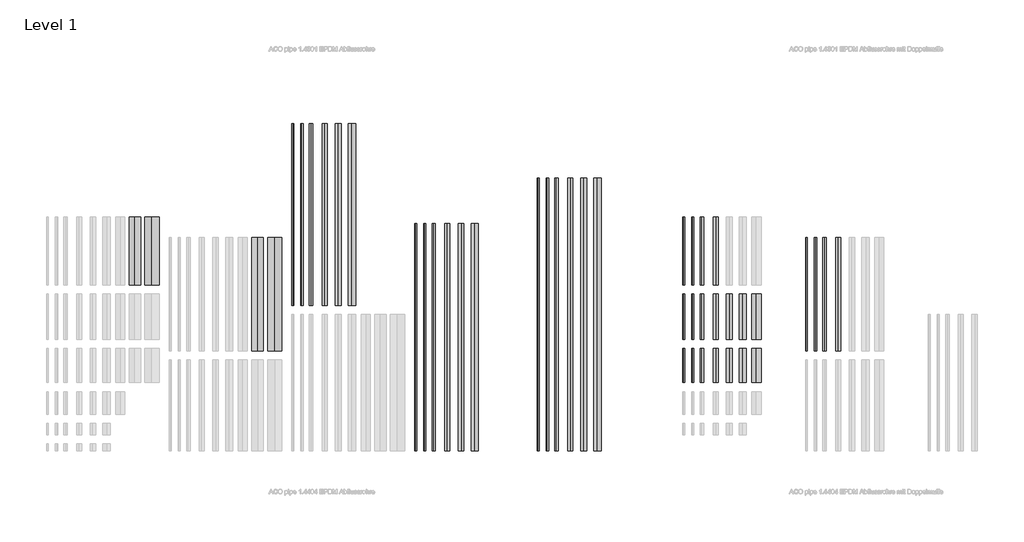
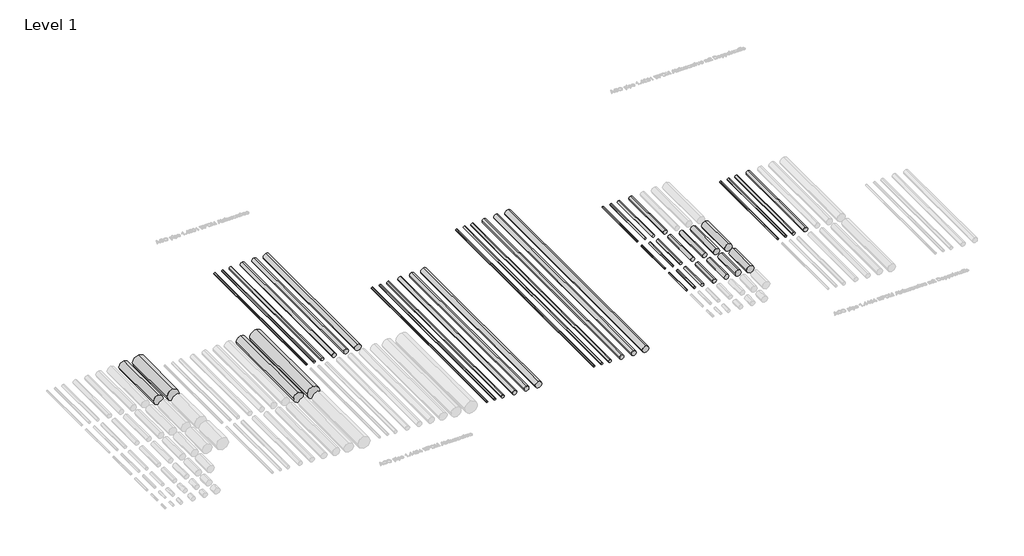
# One storey, part 3 of 13: 44 pipe segments.
"""IFC4 building model written with IfcOpenShell, lengths in millimetres."""

import ifcopenshell
import ifcopenshell.guid

model = None  # the IFC model being written
_history = None  # IfcOwnerHistory: only IFC2X3 demands one
_inside = {}  # id of a spatial element -> (the spatial element, [elements in it])
_under = {}  # id of a project, library or spatial element -> (it, [spatial elements below it])
_declared = {}  # id of a project -> (the project, [libraries it declares])
_typed = {}  # id of a type object -> (the type object, [elements of that type])
_made_of = {}  # id of a material, layer set ... -> (it, [elements and type objects made of it])


def new_model(schema):
    """Start an empty IFC model of exactly this schema.

    Asked for "IFC4X3", IfcOpenShell would pick the latest addendum, in which some entities
    have other attributes; the version numbers below select the first issue.
    IFC2X3 requires an IfcOwnerHistory on every rooted entity: one is made here for all.
    """
    global model, _history
    if schema == "IFC4X3":
        model = ifcopenshell.file(schema_version=(4, 3, 0, 0))
    else:
        model = ifcopenshell.file(schema=schema)
    _inside.clear()
    _under.clear()
    _declared.clear()
    _typed.clear()
    _made_of.clear()
    _history = None
    if model.schema == "IFC2X3":
        org = make("IfcOrganization", Name="unknown")
        user = make(
            "IfcPersonAndOrganization",
            ThePerson=make("IfcPerson", FamilyName="unknown"),
            TheOrganization=org,
        )
        app = make(
            "IfcApplication",
            ApplicationDeveloper=org,
            Version="unknown",
            ApplicationFullName="unknown",
            ApplicationIdentifier="unknown",
        )
        _history = make(
            "IfcOwnerHistory",
            OwningUser=user,
            OwningApplication=app,
            ChangeAction="ADDED",
            CreationDate=0,
        )
    return model


def make(cls, **values):
    """One entity of the class cls with the attributes given. An attribute that is None is left unset."""
    return model.create_entity(
        cls, **{name: value for name, value in values.items() if value is not None}
    )


def rooted(cls, **values):
    """An entity with a GlobalId (a new one), such as an element, a storey or a relation."""
    return make(cls, GlobalId=ifcopenshell.guid.new(), OwnerHistory=_history, **values)


def si_unit(unit_type, name, prefix=None):
    """IfcSIUnit, for example si_unit("LENGTHUNIT", "METRE", prefix="MILLI")."""
    return make("IfcSIUnit", UnitType=unit_type, Prefix=prefix, Name=name)


def assignment(units):
    """IfcUnitAssignment: the units of a project."""
    return None if units is None else make("IfcUnitAssignment", Units=units)


def point(xyz):
    """IfcCartesianPoint."""
    return None if xyz is None else make("IfcCartesianPoint", Coordinates=xyz)


def direction(xyz):
    """IfcDirection."""
    return None if xyz is None else make("IfcDirection", DirectionRatios=xyz)


def frame(location, z_axis=None, x_axis=None):
    """IfcAxis2Placement3D, a coordinate frame: its origin and axes. An axis left out is left unset."""
    return make(
        "IfcAxis2Placement3D",
        Location=point(location),
        Axis=direction(z_axis),
        RefDirection=direction(x_axis),
    )


def frame_2d(location, x_axis=None):
    """IfcAxis2Placement2D, a coordinate frame in the plane: its origin and x axis."""
    return make(
        "IfcAxis2Placement2D", Location=point(location), RefDirection=direction(x_axis)
    )


def origin():
    """The frame at (0, 0, 0) with its axes left unset."""
    return frame((0.0, 0.0, 0.0))


def place(relative_to, where):
    """IfcLocalPlacement: puts the frame where relative to a parent placement (None: the world)."""
    return make(
        "IfcLocalPlacement", PlacementRelTo=relative_to, RelativePlacement=where
    )


def context(
    kind, dimensions, precision=None, world=None, true_north=None, identifier=None
):
    """IfcGeometricRepresentationContext, for example the 3D "Model" context."""
    return make(
        "IfcGeometricRepresentationContext",
        ContextIdentifier=identifier,
        ContextType=kind,
        CoordinateSpaceDimension=dimensions,
        Precision=precision,
        WorldCoordinateSystem=world,
        TrueNorth=true_north,
    )


def project(units=None, contexts=None):
    """IfcProject with its units and contexts."""
    return rooted(
        "IfcProject",
        Name="project",
        RepresentationContexts=contexts,
        UnitsInContext=assignment(units),
    )


def spatial(cls, under=None, at=None, **own):
    """A site, building, storey or space (cls), placed at a placement, below another one or the project."""
    s = rooted(cls, ObjectPlacement=at, **own)
    if under is not None:
        _under.setdefault(under.id(), (under, []))[1].append(s)
    return s


def circle_curve(where, radius):
    """IfcCircle in the frame where."""
    return make("IfcCircle", Position=where, Radius=radius)


def trimmed(basis, trim1, trim2, sense, master):
    """IfcTrimmedCurve: the piece of a basis curve between two trims."""
    return make(
        "IfcTrimmedCurve",
        BasisCurve=basis,
        Trim1=trim1,
        Trim2=trim2,
        SenseAgreement=sense,
        MasterRepresentation=master,
    )


def segment(curve, same_sense, transition):
    """IfcCompositeCurveSegment."""
    return make(
        "IfcCompositeCurveSegment",
        Transition=transition,
        SameSense=same_sense,
        ParentCurve=curve,
    )


def composite_curve(segments, self_intersect=None):
    """IfcCompositeCurve: segments joined end to end."""
    return make("IfcCompositeCurve", Segments=segments, SelfIntersect=self_intersect)


def outline(outer, holes=None, kind="AREA"):
    """IfcArbitraryClosedProfileDef: a profile drawn as a closed curve; with holes, ...WithVoids."""
    if holes is None:
        return make("IfcArbitraryClosedProfileDef", ProfileType=kind, OuterCurve=outer)
    return make(
        "IfcArbitraryProfileDefWithVoids",
        ProfileType=kind,
        OuterCurve=outer,
        InnerCurves=holes,
    )


def extrude(swept, where, along, depth):
    """IfcExtrudedAreaSolid: the profile swept, set in the frame where, extruded along a direction by depth."""
    return make(
        "IfcExtrudedAreaSolid",
        SweptArea=swept,
        Position=where,
        ExtrudedDirection=direction(along),
        Depth=depth,
    )


def shape(context_of_items, identifier, shape_type, items):
    """IfcShapeRepresentation: the items that make up one representation, for example the "Body"."""
    return make(
        "IfcShapeRepresentation",
        ContextOfItems=context_of_items,
        RepresentationIdentifier=identifier,
        RepresentationType=shape_type,
        Items=items,
    )


def made_of(thing, what):
    """Note that an element or type object is made of a material, layer set ...; save() writes the relation."""
    if what is not None:
        _made_of.setdefault(what.id(), (what, []))[1].append(thing)
    return thing


def element(
    cls,
    number,
    at=None,
    inside=None,
    cuts=None,
    type_object=None,
    material=None,
    context=None,
    identifier="Body",
    shape_type=None,
    held_by="IfcProductDefinitionShape",
    body=None,
    shapes=None,
    **own,
):
    """One element of the class cls, such as IfcWall. Its Tag is "e" and its number.

    at: its placement. inside: the storey or other place that contains it. cuts: it is an
    opening in that element (IfcRelVoidsElement). A single representation is given by context,
    identifier, shape_type and body (its items); several are given by shapes. held_by: the class
    of the entity that holds the representations. save() writes the other relations.
    """
    e = rooted(cls, Tag="e%d" % number, ObjectPlacement=at, **own)
    if body is not None:
        shapes = [shape(context, identifier, shape_type, body)]
    if shapes is not None:
        e.Representation = make(held_by, Representations=shapes)
    if inside is not None:
        _inside.setdefault(inside.id(), (inside, []))[1].append(e)
    if cuts is not None:
        rooted(
            "IfcRelVoidsElement", RelatingBuildingElement=cuts, RelatedOpeningElement=e
        )
    if type_object is not None:
        _typed.setdefault(type_object.id(), (type_object, []))[1].append(e)
    return made_of(e, material)


def aggregate(whole, parts):
    """IfcRelAggregates: a whole, such as a stair, and the parts it consists of."""
    return rooted("IfcRelAggregates", RelatingObject=whole, RelatedObjects=parts)


def save(model, path):
    """Write the relations noted so far, then the file.

    IfcRelAggregates (storeys below a building ...), IfcRelContainedInSpatialStructure (elements
    in a storey), IfcRelDefinesByType, IfcRelAssociatesMaterial and IfcRelDeclares: one each for
    every whole, place, type object, material and project.
    """
    for whole, parts in _under.values():
        aggregate(whole, parts)
    for where, things in _inside.values():
        rooted(
            "IfcRelContainedInSpatialStructure",
            RelatedElements=things,
            RelatingStructure=where,
        )
    for kind, things in _typed.values():
        rooted("IfcRelDefinesByType", RelatedObjects=things, RelatingType=kind)
    for what, things in _made_of.values():
        rooted("IfcRelAssociatesMaterial", RelatedObjects=things, RelatingMaterial=what)
    for by, libraries in _declared.values():
        rooted("IfcRelDeclares", RelatingContext=by, RelatedDefinitions=libraries)
    model.write(path)


model = new_model("IFC4")

# Units and contexts
model_context = context("Model", 3, world=origin())
ifc_project = project(units=[si_unit("LENGTHUNIT", "METRE", prefix="MILLI")], contexts=[model_context])

# Site, building, storey
site = spatial("IfcSite", under=ifc_project)
building = spatial("IfcBuilding", under=site)
storey = spatial("IfcBuildingStorey", under=building, Name="Level 1", Elevation=0.0)

# Pipe segments
placement = place(None, origin())
element("IfcPipeSegment", 1, ObjectType="ACO pipe 1.4404 OD (complex)", at=placement, inside=storey, context=model_context, shape_type="SweptSolid", body=[
    extrude(outline(composite_curve([segment(trimmed(circle_curve(frame_2d((0.0, 3721.7461061)), 20.0), [point((0.0, 3741.7461061))], [point((20.0, 3721.7461061))], False, "CARTESIAN"), True, "CONTINUOUS"), segment(trimmed(circle_curve(frame_2d((0.0, 3721.7461061)), 20.0), [point((20.0, 3721.7461061))], [point((0.0, 3701.7461061))], False, "CARTESIAN"), True, "CONTINUOUS"), segment(trimmed(circle_curve(frame_2d((0.0, 3721.7461061)), 20.0), [point((0.0, 3701.7461061))], [point((-20.0, 3721.7461061))], False, "CARTESIAN"), True, "CONTINUOUS"), segment(trimmed(circle_curve(frame_2d((0.0, 3721.7461061)), 20.0), [point((-20.0, 3721.7461061))], [point((0.0, 3741.7461061))], False, "CARTESIAN"), True, "CONTINUOUS")], self_intersect=False)), frame((0.0, -6569.2114353, 0.0), z_axis=(0.0, 1.0, 0.0), x_axis=(0.0, 0.0, 1.0)), (0.0, 0.0, 1.0), 4000.0),
])
element("IfcPipeSegment", 2, ObjectType="ACO pipe 1.4404 OD (complex)", at=placement, inside=storey, context=model_context, shape_type="SweptSolid", body=[
    extrude(outline(composite_curve([segment(trimmed(circle_curve(frame_2d((0.0, 3921.7461061)), 25.0), [point((0.0, 3946.7461061))], [point((25.0, 3921.7461061))], False, "CARTESIAN"), True, "CONTINUOUS"), segment(trimmed(circle_curve(frame_2d((0.0, 3921.7461061)), 25.0), [point((25.0, 3921.7461061))], [point((0.0, 3896.7461061))], False, "CARTESIAN"), True, "CONTINUOUS"), segment(trimmed(circle_curve(frame_2d((0.0, 3921.7461061)), 25.0), [point((0.0, 3896.7461061))], [point((-25.0, 3921.7461061))], False, "CARTESIAN"), True, "CONTINUOUS"), segment(trimmed(circle_curve(frame_2d((0.0, 3921.7461061)), 25.0), [point((-25.0, 3921.7461061))], [point((0.0, 3946.7461061))], False, "CARTESIAN"), True, "CONTINUOUS")], self_intersect=False)), frame((0.0, -6569.2114353, 0.0), z_axis=(0.0, 1.0, 0.0), x_axis=(0.0, 0.0, 1.0)), (0.0, 0.0, 1.0), 4000.0),
])
element("IfcPipeSegment", 3, ObjectType="ACO pipe 1.4404 OD (complex)", at=placement, inside=storey, context=model_context, shape_type="SweptSolid", body=[
    extrude(outline(composite_curve([segment(trimmed(circle_curve(frame_2d((0.0, 4121.7461061)), 37.5), [point((0.0, 4159.2461061))], [point((37.5, 4121.7461061))], False, "CARTESIAN"), True, "CONTINUOUS"), segment(trimmed(circle_curve(frame_2d((0.0, 4121.7461061)), 37.5), [point((37.5, 4121.7461061))], [point((0.0, 4084.2461061))], False, "CARTESIAN"), True, "CONTINUOUS"), segment(trimmed(circle_curve(frame_2d((0.0, 4121.7461061)), 37.5), [point((0.0, 4084.2461061))], [point((-37.5, 4121.7461061))], False, "CARTESIAN"), True, "CONTINUOUS"), segment(trimmed(circle_curve(frame_2d((0.0, 4121.7461061)), 37.5), [point((-37.5, 4121.7461061))], [point((0.0, 4159.2461061))], False, "CARTESIAN"), True, "CONTINUOUS")], self_intersect=False)), frame((0.0, -6569.2114353, 0.0), z_axis=(0.0, 1.0, 0.0), x_axis=(0.0, 0.0, 1.0)), (0.0, 0.0, 1.0), 4000.0),
])
element("IfcPipeSegment", 4, ObjectType="ACO pipe 1.4404 OD (complex)", at=placement, inside=storey, context=model_context, shape_type="SweptSolid", body=[
    extrude(outline(composite_curve([segment(trimmed(circle_curve(frame_2d((0.0, 4421.7461061)), 55.0), [point((0.0, 4476.7461061))], [point((55.0, 4421.7461061))], False, "CARTESIAN"), True, "CONTINUOUS"), segment(trimmed(circle_curve(frame_2d((0.0, 4421.7461061)), 55.0), [point((55.0, 4421.7461061))], [point((0.0, 4366.7461061))], False, "CARTESIAN"), True, "CONTINUOUS"), segment(trimmed(circle_curve(frame_2d((0.0, 4421.7461061)), 55.0), [point((0.0, 4366.7461061))], [point((-55.0, 4421.7461061))], False, "CARTESIAN"), True, "CONTINUOUS"), segment(trimmed(circle_curve(frame_2d((0.0, 4421.7461061)), 55.0), [point((-55.0, 4421.7461061))], [point((0.0, 4476.7461061))], False, "CARTESIAN"), True, "CONTINUOUS")], self_intersect=False)), frame((0.0, -6569.2114353, 0.0), z_axis=(0.0, 1.0, 0.0), x_axis=(0.0, 0.0, 1.0)), (0.0, 0.0, 1.0), 4000.0),
])
element("IfcPipeSegment", 5, ObjectType="ACO pipe 1.4404 OD (complex)", at=placement, inside=storey, context=model_context, shape_type="SweptSolid", body=[
    extrude(outline(composite_curve([segment(trimmed(circle_curve(frame_2d((0.0, 4721.7461061)), 62.5), [point((0.0, 4784.2461061))], [point((62.5, 4721.7461061))], False, "CARTESIAN"), True, "CONTINUOUS"), segment(trimmed(circle_curve(frame_2d((0.0, 4721.7461061)), 62.5), [point((62.5, 4721.7461061))], [point((0.0, 4659.2461061))], False, "CARTESIAN"), True, "CONTINUOUS"), segment(trimmed(circle_curve(frame_2d((0.0, 4721.7461061)), 62.5), [point((0.0, 4659.2461061))], [point((-62.5, 4721.7461061))], False, "CARTESIAN"), True, "CONTINUOUS"), segment(trimmed(circle_curve(frame_2d((0.0, 4721.7461061)), 62.5), [point((-62.5, 4721.7461061))], [point((0.0, 4784.2461061))], False, "CARTESIAN"), True, "CONTINUOUS")], self_intersect=False)), frame((0.0, -6569.2114353, 0.0), z_axis=(0.0, 1.0, 0.0), x_axis=(0.0, 0.0, 1.0)), (0.0, 0.0, 1.0), 4000.0),
])
element("IfcPipeSegment", 6, ObjectType="ACO pipe 1.4404 OD (complex)", at=placement, inside=storey, context=model_context, shape_type="SweptSolid", body=[
    extrude(outline(composite_curve([segment(trimmed(circle_curve(frame_2d((0.0, 5021.7461061)), 80.0), [point((0.0, 5101.7461061))], [point((80.0, 5021.7461061))], False, "CARTESIAN"), True, "CONTINUOUS"), segment(trimmed(circle_curve(frame_2d((0.0, 5021.7461061)), 80.0), [point((80.0, 5021.7461061))], [point((0.0, 4941.7461061))], False, "CARTESIAN"), True, "CONTINUOUS"), segment(trimmed(circle_curve(frame_2d((0.0, 5021.7461061)), 80.0), [point((0.0, 4941.7461061))], [point((-80.0, 5021.7461061))], False, "CARTESIAN"), True, "CONTINUOUS"), segment(trimmed(circle_curve(frame_2d((0.0, 5021.7461061)), 80.0), [point((-80.0, 5021.7461061))], [point((0.0, 5101.7461061))], False, "CARTESIAN"), True, "CONTINUOUS")], self_intersect=False)), frame((0.0, -6569.2114353, 0.0), z_axis=(0.0, 1.0, 0.0), x_axis=(0.0, 0.0, 1.0)), (0.0, 0.0, 1.0), 4000.0),
])
element("IfcPipeSegment", 7, ObjectType="ACO pipe 1.4404 OD (complex)", at=placement, inside=storey, context=model_context, shape_type="SweptSolid", body=[
    extrude(outline(composite_curve([segment(trimmed(circle_curve(frame_2d((0.0, 6421.7461061)), 20.0), [point((0.0, 6441.7461061))], [point((20.0, 6421.7461061))], False, "CARTESIAN"), True, "CONTINUOUS"), segment(trimmed(circle_curve(frame_2d((0.0, 6421.7461061)), 20.0), [point((20.0, 6421.7461061))], [point((0.0, 6401.7461061))], False, "CARTESIAN"), True, "CONTINUOUS"), segment(trimmed(circle_curve(frame_2d((0.0, 6421.7461061)), 20.0), [point((0.0, 6401.7461061))], [point((-20.0, 6421.7461061))], False, "CARTESIAN"), True, "CONTINUOUS"), segment(trimmed(circle_curve(frame_2d((0.0, 6421.7461061)), 20.0), [point((-20.0, 6421.7461061))], [point((0.0, 6441.7461061))], False, "CARTESIAN"), True, "CONTINUOUS")], self_intersect=False)), frame((0.0, -9769.2114353, 0.0), z_axis=(0.0, 1.0, 0.0), x_axis=(0.0, 0.0, 1.0)), (0.0, 0.0, 1.0), 5000.0),
])
element("IfcPipeSegment", 8, ObjectType="ACO pipe 1.4404 OD (complex)", at=placement, inside=storey, context=model_context, shape_type="SweptSolid", body=[
    extrude(outline(composite_curve([segment(trimmed(circle_curve(frame_2d((0.0, 6621.7461061)), 25.0), [point((0.0, 6646.7461061))], [point((25.0, 6621.7461061))], False, "CARTESIAN"), True, "CONTINUOUS"), segment(trimmed(circle_curve(frame_2d((0.0, 6621.7461061)), 25.0), [point((25.0, 6621.7461061))], [point((0.0, 6596.7461061))], False, "CARTESIAN"), True, "CONTINUOUS"), segment(trimmed(circle_curve(frame_2d((0.0, 6621.7461061)), 25.0), [point((0.0, 6596.7461061))], [point((-25.0, 6621.7461061))], False, "CARTESIAN"), True, "CONTINUOUS"), segment(trimmed(circle_curve(frame_2d((0.0, 6621.7461061)), 25.0), [point((-25.0, 6621.7461061))], [point((0.0, 6646.7461061))], False, "CARTESIAN"), True, "CONTINUOUS")], self_intersect=False)), frame((0.0, -9769.2114353, 0.0), z_axis=(0.0, 1.0, 0.0), x_axis=(0.0, 0.0, 1.0)), (0.0, 0.0, 1.0), 5000.0),
])
element("IfcPipeSegment", 9, ObjectType="ACO pipe 1.4404 OD (complex)", at=placement, inside=storey, context=model_context, shape_type="SweptSolid", body=[
    extrude(outline(composite_curve([segment(trimmed(circle_curve(frame_2d((0.0, 6821.7461061)), 37.5), [point((0.0, 6859.2461061))], [point((37.5, 6821.7461061))], False, "CARTESIAN"), True, "CONTINUOUS"), segment(trimmed(circle_curve(frame_2d((0.0, 6821.7461061)), 37.5), [point((37.5, 6821.7461061))], [point((0.0, 6784.2461061))], False, "CARTESIAN"), True, "CONTINUOUS"), segment(trimmed(circle_curve(frame_2d((0.0, 6821.7461061)), 37.5), [point((0.0, 6784.2461061))], [point((-37.5, 6821.7461061))], False, "CARTESIAN"), True, "CONTINUOUS"), segment(trimmed(circle_curve(frame_2d((0.0, 6821.7461061)), 37.5), [point((-37.5, 6821.7461061))], [point((0.0, 6859.2461061))], False, "CARTESIAN"), True, "CONTINUOUS")], self_intersect=False)), frame((0.0, -9769.2114353, 0.0), z_axis=(0.0, 1.0, 0.0), x_axis=(0.0, 0.0, 1.0)), (0.0, 0.0, 1.0), 5000.0),
])
element("IfcPipeSegment", 10, ObjectType="ACO pipe 1.4404 OD (complex)", at=placement, inside=storey, context=model_context, shape_type="SweptSolid", body=[
    extrude(outline(composite_curve([segment(trimmed(circle_curve(frame_2d((0.0, 7121.7461061)), 55.0), [point((0.0, 7176.7461061))], [point((55.0, 7121.7461061))], False, "CARTESIAN"), True, "CONTINUOUS"), segment(trimmed(circle_curve(frame_2d((0.0, 7121.7461061)), 55.0), [point((55.0, 7121.7461061))], [point((0.0, 7066.7461061))], False, "CARTESIAN"), True, "CONTINUOUS"), segment(trimmed(circle_curve(frame_2d((0.0, 7121.7461061)), 55.0), [point((0.0, 7066.7461061))], [point((-55.0, 7121.7461061))], False, "CARTESIAN"), True, "CONTINUOUS"), segment(trimmed(circle_curve(frame_2d((0.0, 7121.7461061)), 55.0), [point((-55.0, 7121.7461061))], [point((0.0, 7176.7461061))], False, "CARTESIAN"), True, "CONTINUOUS")], self_intersect=False)), frame((0.0, -9769.2114353, 0.0), z_axis=(0.0, 1.0, 0.0), x_axis=(0.0, 0.0, 1.0)), (0.0, 0.0, 1.0), 5000.0),
])
element("IfcPipeSegment", 11, ObjectType="ACO pipe 1.4404 OD (complex)", at=placement, inside=storey, context=model_context, shape_type="SweptSolid", body=[
    extrude(outline(composite_curve([segment(trimmed(circle_curve(frame_2d((0.0, 7421.7461061)), 62.5), [point((0.0, 7484.2461061))], [point((62.5, 7421.7461061))], False, "CARTESIAN"), True, "CONTINUOUS"), segment(trimmed(circle_curve(frame_2d((0.0, 7421.7461061)), 62.5), [point((62.5, 7421.7461061))], [point((0.0, 7359.2461061))], False, "CARTESIAN"), True, "CONTINUOUS"), segment(trimmed(circle_curve(frame_2d((0.0, 7421.7461061)), 62.5), [point((0.0, 7359.2461061))], [point((-62.5, 7421.7461061))], False, "CARTESIAN"), True, "CONTINUOUS"), segment(trimmed(circle_curve(frame_2d((0.0, 7421.7461061)), 62.5), [point((-62.5, 7421.7461061))], [point((0.0, 7484.2461061))], False, "CARTESIAN"), True, "CONTINUOUS")], self_intersect=False)), frame((0.0, -9769.2114353, 0.0), z_axis=(0.0, 1.0, 0.0), x_axis=(0.0, 0.0, 1.0)), (0.0, 0.0, 1.0), 5000.0),
])
element("IfcPipeSegment", 12, ObjectType="ACO pipe 1.4404 OD (complex)", at=placement, inside=storey, context=model_context, shape_type="SweptSolid", body=[
    extrude(outline(composite_curve([segment(trimmed(circle_curve(frame_2d((0.0, 7721.7461061)), 80.0), [point((0.0, 7801.7461061))], [point((80.0, 7721.7461061))], False, "CARTESIAN"), True, "CONTINUOUS"), segment(trimmed(circle_curve(frame_2d((0.0, 7721.7461061)), 80.0), [point((80.0, 7721.7461061))], [point((0.0, 7641.7461061))], False, "CARTESIAN"), True, "CONTINUOUS"), segment(trimmed(circle_curve(frame_2d((0.0, 7721.7461061)), 80.0), [point((0.0, 7641.7461061))], [point((-80.0, 7721.7461061))], False, "CARTESIAN"), True, "CONTINUOUS"), segment(trimmed(circle_curve(frame_2d((0.0, 7721.7461061)), 80.0), [point((-80.0, 7721.7461061))], [point((0.0, 7801.7461061))], False, "CARTESIAN"), True, "CONTINUOUS")], self_intersect=False)), frame((0.0, -9769.2114353, 0.0), z_axis=(0.0, 1.0, 0.0), x_axis=(0.0, 0.0, 1.0)), (0.0, 0.0, 1.0), 5000.0),
])
element("IfcPipeSegment", 13, ObjectType="ACO pipe 1.4404 OD (complex)", at=placement, inside=storey, context=model_context, shape_type="SweptSolid", body=[
    extrude(outline(composite_curve([segment(trimmed(circle_curve(frame_2d((0.0, 9121.7461061)), 20.0), [point((0.0, 9141.7461061))], [point((20.0, 9121.7461061))], False, "CARTESIAN"), True, "CONTINUOUS"), segment(trimmed(circle_curve(frame_2d((0.0, 9121.7461061)), 20.0), [point((20.0, 9121.7461061))], [point((0.0, 9101.7461061))], False, "CARTESIAN"), True, "CONTINUOUS"), segment(trimmed(circle_curve(frame_2d((0.0, 9121.7461061)), 20.0), [point((0.0, 9101.7461061))], [point((-20.0, 9121.7461061))], False, "CARTESIAN"), True, "CONTINUOUS"), segment(trimmed(circle_curve(frame_2d((0.0, 9121.7461061)), 20.0), [point((-20.0, 9121.7461061))], [point((0.0, 9141.7461061))], False, "CARTESIAN"), True, "CONTINUOUS")], self_intersect=False)), frame((0.0, -9769.2114353, 0.0), z_axis=(0.0, 1.0, 0.0), x_axis=(0.0, 0.0, 1.0)), (0.0, 0.0, 1.0), 6000.0),
])
element("IfcPipeSegment", 14, ObjectType="ACO pipe 1.4404 OD (complex)", at=placement, inside=storey, context=model_context, shape_type="SweptSolid", body=[
    extrude(outline(composite_curve([segment(trimmed(circle_curve(frame_2d((0.0, 9321.7461061)), 25.0), [point((0.0, 9346.7461061))], [point((25.0, 9321.7461061))], False, "CARTESIAN"), True, "CONTINUOUS"), segment(trimmed(circle_curve(frame_2d((0.0, 9321.7461061)), 25.0), [point((25.0, 9321.7461061))], [point((0.0, 9296.7461061))], False, "CARTESIAN"), True, "CONTINUOUS"), segment(trimmed(circle_curve(frame_2d((0.0, 9321.7461061)), 25.0), [point((0.0, 9296.7461061))], [point((-25.0, 9321.7461061))], False, "CARTESIAN"), True, "CONTINUOUS"), segment(trimmed(circle_curve(frame_2d((0.0, 9321.7461061)), 25.0), [point((-25.0, 9321.7461061))], [point((0.0, 9346.7461061))], False, "CARTESIAN"), True, "CONTINUOUS")], self_intersect=False)), frame((0.0, -9769.2114353, 0.0), z_axis=(0.0, 1.0, 0.0), x_axis=(0.0, 0.0, 1.0)), (0.0, 0.0, 1.0), 6000.0),
])
element("IfcPipeSegment", 15, ObjectType="ACO pipe 1.4404 OD (complex)", at=placement, inside=storey, context=model_context, shape_type="SweptSolid", body=[
    extrude(outline(composite_curve([segment(trimmed(circle_curve(frame_2d((0.0, 9521.7461061)), 37.5), [point((0.0, 9559.2461061))], [point((37.5, 9521.7461061))], False, "CARTESIAN"), True, "CONTINUOUS"), segment(trimmed(circle_curve(frame_2d((0.0, 9521.7461061)), 37.5), [point((37.5, 9521.7461061))], [point((0.0, 9484.2461061))], False, "CARTESIAN"), True, "CONTINUOUS"), segment(trimmed(circle_curve(frame_2d((0.0, 9521.7461061)), 37.5), [point((0.0, 9484.2461061))], [point((-37.5, 9521.7461061))], False, "CARTESIAN"), True, "CONTINUOUS"), segment(trimmed(circle_curve(frame_2d((0.0, 9521.7461061)), 37.5), [point((-37.5, 9521.7461061))], [point((0.0, 9559.2461061))], False, "CARTESIAN"), True, "CONTINUOUS")], self_intersect=False)), frame((0.0, -9769.2114353, 0.0), z_axis=(0.0, 1.0, 0.0), x_axis=(0.0, 0.0, 1.0)), (0.0, 0.0, 1.0), 6000.0),
])
element("IfcPipeSegment", 16, ObjectType="ACO pipe 1.4404 OD (complex)", at=placement, inside=storey, context=model_context, shape_type="SweptSolid", body=[
    extrude(outline(composite_curve([segment(trimmed(circle_curve(frame_2d((0.0, 9821.7461061)), 55.0), [point((0.0, 9876.7461061))], [point((55.0, 9821.7461061))], False, "CARTESIAN"), True, "CONTINUOUS"), segment(trimmed(circle_curve(frame_2d((0.0, 9821.7461061)), 55.0), [point((55.0, 9821.7461061))], [point((0.0, 9766.7461061))], False, "CARTESIAN"), True, "CONTINUOUS"), segment(trimmed(circle_curve(frame_2d((0.0, 9821.7461061)), 55.0), [point((0.0, 9766.7461061))], [point((-55.0, 9821.7461061))], False, "CARTESIAN"), True, "CONTINUOUS"), segment(trimmed(circle_curve(frame_2d((0.0, 9821.7461061)), 55.0), [point((-55.0, 9821.7461061))], [point((0.0, 9876.7461061))], False, "CARTESIAN"), True, "CONTINUOUS")], self_intersect=False)), frame((0.0, -9769.2114353, 0.0), z_axis=(0.0, 1.0, 0.0), x_axis=(0.0, 0.0, 1.0)), (0.0, 0.0, 1.0), 6000.0),
])
element("IfcPipeSegment", 17, ObjectType="ACO pipe 1.4404 OD (complex)", at=placement, inside=storey, context=model_context, shape_type="SweptSolid", body=[
    extrude(outline(composite_curve([segment(trimmed(circle_curve(frame_2d((0.0, 10121.7461061)), 62.5), [point((0.0, 10184.2461061))], [point((62.5, 10121.7461061))], False, "CARTESIAN"), True, "CONTINUOUS"), segment(trimmed(circle_curve(frame_2d((0.0, 10121.7461061)), 62.5), [point((62.5, 10121.7461061))], [point((0.0, 10059.2461061))], False, "CARTESIAN"), True, "CONTINUOUS"), segment(trimmed(circle_curve(frame_2d((0.0, 10121.7461061)), 62.5), [point((0.0, 10059.2461061))], [point((-62.5, 10121.7461061))], False, "CARTESIAN"), True, "CONTINUOUS"), segment(trimmed(circle_curve(frame_2d((0.0, 10121.7461061)), 62.5), [point((-62.5, 10121.7461061))], [point((0.0, 10184.2461061))], False, "CARTESIAN"), True, "CONTINUOUS")], self_intersect=False)), frame((0.0, -9769.2114353, 0.0), z_axis=(0.0, 1.0, 0.0), x_axis=(0.0, 0.0, 1.0)), (0.0, 0.0, 1.0), 6000.0),
])
element("IfcPipeSegment", 18, ObjectType="ACO pipe 1.4404 OD (complex)", at=placement, inside=storey, context=model_context, shape_type="SweptSolid", body=[
    extrude(outline(composite_curve([segment(trimmed(circle_curve(frame_2d((0.0, 10421.7461061)), 80.0), [point((0.0, 10501.7461061))], [point((80.0, 10421.7461061))], False, "CARTESIAN"), True, "CONTINUOUS"), segment(trimmed(circle_curve(frame_2d((0.0, 10421.7461061)), 80.0), [point((80.0, 10421.7461061))], [point((0.0, 10341.7461061))], False, "CARTESIAN"), True, "CONTINUOUS"), segment(trimmed(circle_curve(frame_2d((0.0, 10421.7461061)), 80.0), [point((0.0, 10341.7461061))], [point((-80.0, 10421.7461061))], False, "CARTESIAN"), True, "CONTINUOUS"), segment(trimmed(circle_curve(frame_2d((0.0, 10421.7461061)), 80.0), [point((-80.0, 10421.7461061))], [point((0.0, 10501.7461061))], False, "CARTESIAN"), True, "CONTINUOUS")], self_intersect=False)), frame((0.0, -9769.2114353, 0.0), z_axis=(0.0, 1.0, 0.0), x_axis=(0.0, 0.0, 1.0)), (0.0, 0.0, 1.0), 6000.0),
])
element("IfcPipeSegment", 19, ObjectType="ACO pipe 1.4404 OD (complex)", at=placement, inside=storey, context=model_context, shape_type="SweptSolid", body=[
    extrude(outline(composite_curve([segment(trimmed(circle_curve(frame_2d((0.0, 246.7461061)), 125.0), [point((0.0, 371.7461061))], [point((125.0, 246.7461061))], False, "CARTESIAN"), True, "CONTINUOUS"), segment(trimmed(circle_curve(frame_2d((0.0, 246.7461061)), 125.0), [point((125.0, 246.7461061))], [point((0.0, 121.7461061))], False, "CARTESIAN"), True, "CONTINUOUS"), segment(trimmed(circle_curve(frame_2d((0.0, 246.7461061)), 125.0), [point((0.0, 121.7461061))], [point((-125.0, 246.7461061))], False, "CARTESIAN"), True, "CONTINUOUS"), segment(trimmed(circle_curve(frame_2d((0.0, 246.7461061)), 125.0), [point((-125.0, 246.7461061))], [point((0.0, 371.7461061))], False, "CARTESIAN"), True, "CONTINUOUS")], self_intersect=False)), frame((0.0, -6119.2114353, 0.0), z_axis=(0.0, 1.0, 0.0), x_axis=(0.0, 0.0, 1.0)), (0.0, 0.0, 1.0), 1500.0),
])
element("IfcPipeSegment", 20, ObjectType="ACO pipe 1.4404 OD (complex)", at=placement, inside=storey, context=model_context, shape_type="SweptSolid", body=[
    extrude(outline(composite_curve([segment(trimmed(circle_curve(frame_2d((0.0, 621.7461061)), 157.5), [point((0.0, 779.2461061))], [point((157.5, 621.7461061))], False, "CARTESIAN"), True, "CONTINUOUS"), segment(trimmed(circle_curve(frame_2d((0.0, 621.7461061)), 157.5), [point((157.5, 621.7461061))], [point((0.0, 464.2461061))], False, "CARTESIAN"), True, "CONTINUOUS"), segment(trimmed(circle_curve(frame_2d((0.0, 621.7461061)), 157.5), [point((0.0, 464.2461061))], [point((-157.5, 621.7461061))], False, "CARTESIAN"), True, "CONTINUOUS"), segment(trimmed(circle_curve(frame_2d((0.0, 621.7461061)), 157.5), [point((-157.5, 621.7461061))], [point((0.0, 779.2461061))], False, "CARTESIAN"), True, "CONTINUOUS")], self_intersect=False)), frame((0.0, -6119.2114353, 0.0), z_axis=(0.0, 1.0, 0.0), x_axis=(0.0, 0.0, 1.0)), (0.0, 0.0, 1.0), 1500.0),
])
element("IfcPipeSegment", 21, ObjectType="ACO pipe 1.4404 OD (complex)", at=placement, inside=storey, context=model_context, shape_type="SweptSolid", body=[
    extrude(outline(composite_curve([segment(trimmed(circle_curve(frame_2d((0.0, 2946.7461061)), 125.0), [point((0.0, 3071.7461061))], [point((125.0, 2946.7461061))], False, "CARTESIAN"), True, "CONTINUOUS"), segment(trimmed(circle_curve(frame_2d((0.0, 2946.7461061)), 125.0), [point((125.0, 2946.7461061))], [point((0.0, 2821.7461061))], False, "CARTESIAN"), True, "CONTINUOUS"), segment(trimmed(circle_curve(frame_2d((0.0, 2946.7461061)), 125.0), [point((0.0, 2821.7461061))], [point((-125.0, 2946.7461061))], False, "CARTESIAN"), True, "CONTINUOUS"), segment(trimmed(circle_curve(frame_2d((0.0, 2946.7461061)), 125.0), [point((-125.0, 2946.7461061))], [point((0.0, 3071.7461061))], False, "CARTESIAN"), True, "CONTINUOUS")], self_intersect=False)), frame((0.0, -7569.2114353, 0.0), z_axis=(0.0, 1.0, 0.0), x_axis=(0.0, 0.0, 1.0)), (0.0, 0.0, 1.0), 2500.0),
])
element("IfcPipeSegment", 22, ObjectType="ACO pipe 1.4404 OD (complex)", at=placement, inside=storey, context=model_context, shape_type="SweptSolid", body=[
    extrude(outline(composite_curve([segment(trimmed(circle_curve(frame_2d((0.0, 3321.7461061)), 157.5), [point((0.0, 3479.2461061))], [point((157.5, 3321.7461061))], False, "CARTESIAN"), True, "CONTINUOUS"), segment(trimmed(circle_curve(frame_2d((0.0, 3321.7461061)), 157.5), [point((157.5, 3321.7461061))], [point((0.0, 3164.2461061))], False, "CARTESIAN"), True, "CONTINUOUS"), segment(trimmed(circle_curve(frame_2d((0.0, 3321.7461061)), 157.5), [point((0.0, 3164.2461061))], [point((-157.5, 3321.7461061))], False, "CARTESIAN"), True, "CONTINUOUS"), segment(trimmed(circle_curve(frame_2d((0.0, 3321.7461061)), 157.5), [point((-157.5, 3321.7461061))], [point((0.0, 3479.2461061))], False, "CARTESIAN"), True, "CONTINUOUS")], self_intersect=False)), frame((0.0, -7569.2114353, 0.0), z_axis=(0.0, 1.0, 0.0), x_axis=(0.0, 0.0, 1.0)), (0.0, 0.0, 1.0), 2500.0),
])
element("IfcPipeSegment", 23, ObjectType="ACO pipe 1.4404 OD (complex)", at=placement, inside=storey, context=model_context, shape_type="SweptSolid", body=[
    extrude(outline(composite_curve([segment(trimmed(circle_curve(frame_2d((0.0, 12321.7461061)), 20.0), [point((0.0, 12341.7461061))], [point((20.0, 12321.7461061))], False, "CARTESIAN"), True, "CONTINUOUS"), segment(trimmed(circle_curve(frame_2d((0.0, 12321.7461061)), 20.0), [point((20.0, 12321.7461061))], [point((0.0, 12301.7461061))], False, "CARTESIAN"), True, "CONTINUOUS"), segment(trimmed(circle_curve(frame_2d((0.0, 12321.7461061)), 20.0), [point((0.0, 12301.7461061))], [point((-20.0, 12321.7461061))], False, "CARTESIAN"), True, "CONTINUOUS"), segment(trimmed(circle_curve(frame_2d((0.0, 12321.7461061)), 20.0), [point((-20.0, 12321.7461061))], [point((0.0, 12341.7461061))], False, "CARTESIAN"), True, "CONTINUOUS")], self_intersect=False)), frame((0.0, -8269.2114353, 0.0), z_axis=(0.0, 1.0, 0.0), x_axis=(0.0, 0.0, 1.0)), (0.0, 0.0, 1.0), 750.0),
])
element("IfcPipeSegment", 24, ObjectType="ACO pipe 1.4404 OD (complex)", at=placement, inside=storey, context=model_context, shape_type="SweptSolid", body=[
    extrude(outline(composite_curve([segment(trimmed(circle_curve(frame_2d((0.0, 12521.7461061)), 25.0), [point((0.0, 12546.7461061))], [point((25.0, 12521.7461061))], False, "CARTESIAN"), True, "CONTINUOUS"), segment(trimmed(circle_curve(frame_2d((0.0, 12521.7461061)), 25.0), [point((25.0, 12521.7461061))], [point((0.0, 12496.7461061))], False, "CARTESIAN"), True, "CONTINUOUS"), segment(trimmed(circle_curve(frame_2d((0.0, 12521.7461061)), 25.0), [point((0.0, 12496.7461061))], [point((-25.0, 12521.7461061))], False, "CARTESIAN"), True, "CONTINUOUS"), segment(trimmed(circle_curve(frame_2d((0.0, 12521.7461061)), 25.0), [point((-25.0, 12521.7461061))], [point((0.0, 12546.7461061))], False, "CARTESIAN"), True, "CONTINUOUS")], self_intersect=False)), frame((0.0, -8269.2114353, 0.0), z_axis=(0.0, 1.0, 0.0), x_axis=(0.0, 0.0, 1.0)), (0.0, 0.0, 1.0), 750.0),
])
element("IfcPipeSegment", 25, ObjectType="ACO pipe 1.4404 OD (complex)", at=placement, inside=storey, context=model_context, shape_type="SweptSolid", body=[
    extrude(outline(composite_curve([segment(trimmed(circle_curve(frame_2d((0.0, 12721.7461061)), 37.5), [point((0.0, 12759.2461061))], [point((37.5, 12721.7461061))], False, "CARTESIAN"), True, "CONTINUOUS"), segment(trimmed(circle_curve(frame_2d((0.0, 12721.7461061)), 37.5), [point((37.5, 12721.7461061))], [point((0.0, 12684.2461061))], False, "CARTESIAN"), True, "CONTINUOUS"), segment(trimmed(circle_curve(frame_2d((0.0, 12721.7461061)), 37.5), [point((0.0, 12684.2461061))], [point((-37.5, 12721.7461061))], False, "CARTESIAN"), True, "CONTINUOUS"), segment(trimmed(circle_curve(frame_2d((0.0, 12721.7461061)), 37.5), [point((-37.5, 12721.7461061))], [point((0.0, 12759.2461061))], False, "CARTESIAN"), True, "CONTINUOUS")], self_intersect=False)), frame((0.0, -8269.2114353, 0.0), z_axis=(0.0, 1.0, 0.0), x_axis=(0.0, 0.0, 1.0)), (0.0, 0.0, 1.0), 750.0),
])
element("IfcPipeSegment", 26, ObjectType="ACO pipe 1.4404 OD (complex)", at=placement, inside=storey, context=model_context, shape_type="SweptSolid", body=[
    extrude(outline(composite_curve([segment(trimmed(circle_curve(frame_2d((0.0, 13021.7461061)), 55.0), [point((0.0, 13076.7461061))], [point((55.0, 13021.7461061))], False, "CARTESIAN"), True, "CONTINUOUS"), segment(trimmed(circle_curve(frame_2d((0.0, 13021.7461061)), 55.0), [point((55.0, 13021.7461061))], [point((0.0, 12966.7461061))], False, "CARTESIAN"), True, "CONTINUOUS"), segment(trimmed(circle_curve(frame_2d((0.0, 13021.7461061)), 55.0), [point((0.0, 12966.7461061))], [point((-55.0, 13021.7461061))], False, "CARTESIAN"), True, "CONTINUOUS"), segment(trimmed(circle_curve(frame_2d((0.0, 13021.7461061)), 55.0), [point((-55.0, 13021.7461061))], [point((0.0, 13076.7461061))], False, "CARTESIAN"), True, "CONTINUOUS")], self_intersect=False)), frame((0.0, -8269.2114353, 0.0), z_axis=(0.0, 1.0, 0.0), x_axis=(0.0, 0.0, 1.0)), (0.0, 0.0, 1.0), 750.0),
])
element("IfcPipeSegment", 27, ObjectType="ACO pipe 1.4404 OD (complex)", at=placement, inside=storey, context=model_context, shape_type="SweptSolid", body=[
    extrude(outline(composite_curve([segment(trimmed(circle_curve(frame_2d((0.0, 13321.7461061)), 62.5), [point((0.0, 13384.2461061))], [point((62.5, 13321.7461061))], False, "CARTESIAN"), True, "CONTINUOUS"), segment(trimmed(circle_curve(frame_2d((0.0, 13321.7461061)), 62.5), [point((62.5, 13321.7461061))], [point((0.0, 13259.2461061))], False, "CARTESIAN"), True, "CONTINUOUS"), segment(trimmed(circle_curve(frame_2d((0.0, 13321.7461061)), 62.5), [point((0.0, 13259.2461061))], [point((-62.5, 13321.7461061))], False, "CARTESIAN"), True, "CONTINUOUS"), segment(trimmed(circle_curve(frame_2d((0.0, 13321.7461061)), 62.5), [point((-62.5, 13321.7461061))], [point((0.0, 13384.2461061))], False, "CARTESIAN"), True, "CONTINUOUS")], self_intersect=False)), frame((0.0, -8269.2114353, 0.0), z_axis=(0.0, 1.0, 0.0), x_axis=(0.0, 0.0, 1.0)), (0.0, 0.0, 1.0), 750.0),
])
element("IfcPipeSegment", 28, ObjectType="ACO pipe 1.4404 OD (complex)", at=placement, inside=storey, context=model_context, shape_type="SweptSolid", body=[
    extrude(outline(composite_curve([segment(trimmed(circle_curve(frame_2d((0.0, 13621.7461061)), 80.0), [point((0.0, 13701.7461061))], [point((80.0, 13621.7461061))], False, "CARTESIAN"), True, "CONTINUOUS"), segment(trimmed(circle_curve(frame_2d((0.0, 13621.7461061)), 80.0), [point((80.0, 13621.7461061))], [point((0.0, 13541.7461061))], False, "CARTESIAN"), True, "CONTINUOUS"), segment(trimmed(circle_curve(frame_2d((0.0, 13621.7461061)), 80.0), [point((0.0, 13541.7461061))], [point((-80.0, 13621.7461061))], False, "CARTESIAN"), True, "CONTINUOUS"), segment(trimmed(circle_curve(frame_2d((0.0, 13621.7461061)), 80.0), [point((-80.0, 13621.7461061))], [point((0.0, 13701.7461061))], False, "CARTESIAN"), True, "CONTINUOUS")], self_intersect=False)), frame((0.0, -8269.2114353, 0.0), z_axis=(0.0, 1.0, 0.0), x_axis=(0.0, 0.0, 1.0)), (0.0, 0.0, 1.0), 750.0),
])
element("IfcPipeSegment", 29, ObjectType="ACO pipe 1.4404 OD (complex)", at=placement, inside=storey, context=model_context, shape_type="SweptSolid", body=[
    extrude(outline(composite_curve([segment(trimmed(circle_curve(frame_2d((0.0, 13921.7461061)), 100.0), [point((0.0, 14021.7461061))], [point((100.0, 13921.7461061))], False, "CARTESIAN"), True, "CONTINUOUS"), segment(trimmed(circle_curve(frame_2d((0.0, 13921.7461061)), 100.0), [point((100.0, 13921.7461061))], [point((0.0, 13821.7461061))], False, "CARTESIAN"), True, "CONTINUOUS"), segment(trimmed(circle_curve(frame_2d((0.0, 13921.7461061)), 100.0), [point((0.0, 13821.7461061))], [point((-100.0, 13921.7461061))], False, "CARTESIAN"), True, "CONTINUOUS"), segment(trimmed(circle_curve(frame_2d((0.0, 13921.7461061)), 100.0), [point((-100.0, 13921.7461061))], [point((0.0, 14021.7461061))], False, "CARTESIAN"), True, "CONTINUOUS")], self_intersect=False)), frame((0.0, -8269.2114353, 0.0), z_axis=(0.0, 1.0, 0.0), x_axis=(0.0, 0.0, 1.0)), (0.0, 0.0, 1.0), 750.0),
])
element("IfcPipeSegment", 30, ObjectType="ACO pipe 1.4404 OD (complex)", at=placement, inside=storey, context=model_context, shape_type="SweptSolid", body=[
    extrude(outline(composite_curve([segment(trimmed(circle_curve(frame_2d((0.0, 12321.7461061)), 20.0), [point((0.0, 12341.7461061))], [point((20.0, 12321.7461061))], False, "CARTESIAN"), True, "CONTINUOUS"), segment(trimmed(circle_curve(frame_2d((0.0, 12321.7461061)), 20.0), [point((20.0, 12321.7461061))], [point((0.0, 12301.7461061))], False, "CARTESIAN"), True, "CONTINUOUS"), segment(trimmed(circle_curve(frame_2d((0.0, 12321.7461061)), 20.0), [point((0.0, 12301.7461061))], [point((-20.0, 12321.7461061))], False, "CARTESIAN"), True, "CONTINUOUS"), segment(trimmed(circle_curve(frame_2d((0.0, 12321.7461061)), 20.0), [point((-20.0, 12321.7461061))], [point((0.0, 12341.7461061))], False, "CARTESIAN"), True, "CONTINUOUS")], self_intersect=False)), frame((0.0, -7319.2114353, 0.0), z_axis=(0.0, 1.0, 0.0), x_axis=(0.0, 0.0, 1.0)), (0.0, 0.0, 1.0), 1000.0),
])
element("IfcPipeSegment", 31, ObjectType="ACO pipe 1.4404 OD (complex)", at=placement, inside=storey, context=model_context, shape_type="SweptSolid", body=[
    extrude(outline(composite_curve([segment(trimmed(circle_curve(frame_2d((0.0, 12521.7461061)), 25.0), [point((0.0, 12546.7461061))], [point((25.0, 12521.7461061))], False, "CARTESIAN"), True, "CONTINUOUS"), segment(trimmed(circle_curve(frame_2d((0.0, 12521.7461061)), 25.0), [point((25.0, 12521.7461061))], [point((0.0, 12496.7461061))], False, "CARTESIAN"), True, "CONTINUOUS"), segment(trimmed(circle_curve(frame_2d((0.0, 12521.7461061)), 25.0), [point((0.0, 12496.7461061))], [point((-25.0, 12521.7461061))], False, "CARTESIAN"), True, "CONTINUOUS"), segment(trimmed(circle_curve(frame_2d((0.0, 12521.7461061)), 25.0), [point((-25.0, 12521.7461061))], [point((0.0, 12546.7461061))], False, "CARTESIAN"), True, "CONTINUOUS")], self_intersect=False)), frame((0.0, -7319.2114353, 0.0), z_axis=(0.0, 1.0, 0.0), x_axis=(0.0, 0.0, 1.0)), (0.0, 0.0, 1.0), 1000.0),
])
element("IfcPipeSegment", 32, ObjectType="ACO pipe 1.4404 OD (complex)", at=placement, inside=storey, context=model_context, shape_type="SweptSolid", body=[
    extrude(outline(composite_curve([segment(trimmed(circle_curve(frame_2d((0.0, 12721.7461061)), 37.5), [point((0.0, 12759.2461061))], [point((37.5, 12721.7461061))], False, "CARTESIAN"), True, "CONTINUOUS"), segment(trimmed(circle_curve(frame_2d((0.0, 12721.7461061)), 37.5), [point((37.5, 12721.7461061))], [point((0.0, 12684.2461061))], False, "CARTESIAN"), True, "CONTINUOUS"), segment(trimmed(circle_curve(frame_2d((0.0, 12721.7461061)), 37.5), [point((0.0, 12684.2461061))], [point((-37.5, 12721.7461061))], False, "CARTESIAN"), True, "CONTINUOUS"), segment(trimmed(circle_curve(frame_2d((0.0, 12721.7461061)), 37.5), [point((-37.5, 12721.7461061))], [point((0.0, 12759.2461061))], False, "CARTESIAN"), True, "CONTINUOUS")], self_intersect=False)), frame((0.0, -7319.2114353, 0.0), z_axis=(0.0, 1.0, 0.0), x_axis=(0.0, 0.0, 1.0)), (0.0, 0.0, 1.0), 1000.0),
])
element("IfcPipeSegment", 33, ObjectType="ACO pipe 1.4404 OD (complex)", at=placement, inside=storey, context=model_context, shape_type="SweptSolid", body=[
    extrude(outline(composite_curve([segment(trimmed(circle_curve(frame_2d((0.0, 13021.7461061)), 55.0), [point((0.0, 13076.7461061))], [point((55.0, 13021.7461061))], False, "CARTESIAN"), True, "CONTINUOUS"), segment(trimmed(circle_curve(frame_2d((0.0, 13021.7461061)), 55.0), [point((55.0, 13021.7461061))], [point((0.0, 12966.7461061))], False, "CARTESIAN"), True, "CONTINUOUS"), segment(trimmed(circle_curve(frame_2d((0.0, 13021.7461061)), 55.0), [point((0.0, 12966.7461061))], [point((-55.0, 13021.7461061))], False, "CARTESIAN"), True, "CONTINUOUS"), segment(trimmed(circle_curve(frame_2d((0.0, 13021.7461061)), 55.0), [point((-55.0, 13021.7461061))], [point((0.0, 13076.7461061))], False, "CARTESIAN"), True, "CONTINUOUS")], self_intersect=False)), frame((0.0, -7319.2114353, 0.0), z_axis=(0.0, 1.0, 0.0), x_axis=(0.0, 0.0, 1.0)), (0.0, 0.0, 1.0), 1000.0),
])
element("IfcPipeSegment", 34, ObjectType="ACO pipe 1.4404 OD (complex)", at=placement, inside=storey, context=model_context, shape_type="SweptSolid", body=[
    extrude(outline(composite_curve([segment(trimmed(circle_curve(frame_2d((0.0, 13321.7461061)), 62.5), [point((0.0, 13384.2461061))], [point((62.5, 13321.7461061))], False, "CARTESIAN"), True, "CONTINUOUS"), segment(trimmed(circle_curve(frame_2d((0.0, 13321.7461061)), 62.5), [point((62.5, 13321.7461061))], [point((0.0, 13259.2461061))], False, "CARTESIAN"), True, "CONTINUOUS"), segment(trimmed(circle_curve(frame_2d((0.0, 13321.7461061)), 62.5), [point((0.0, 13259.2461061))], [point((-62.5, 13321.7461061))], False, "CARTESIAN"), True, "CONTINUOUS"), segment(trimmed(circle_curve(frame_2d((0.0, 13321.7461061)), 62.5), [point((-62.5, 13321.7461061))], [point((0.0, 13384.2461061))], False, "CARTESIAN"), True, "CONTINUOUS")], self_intersect=False)), frame((0.0, -7319.2114353, 0.0), z_axis=(0.0, 1.0, 0.0), x_axis=(0.0, 0.0, 1.0)), (0.0, 0.0, 1.0), 1000.0),
])
element("IfcPipeSegment", 35, ObjectType="ACO pipe 1.4404 OD (complex)", at=placement, inside=storey, context=model_context, shape_type="SweptSolid", body=[
    extrude(outline(composite_curve([segment(trimmed(circle_curve(frame_2d((0.0, 13621.7461061)), 80.0), [point((0.0, 13701.7461061))], [point((80.0, 13621.7461061))], False, "CARTESIAN"), True, "CONTINUOUS"), segment(trimmed(circle_curve(frame_2d((0.0, 13621.7461061)), 80.0), [point((80.0, 13621.7461061))], [point((0.0, 13541.7461061))], False, "CARTESIAN"), True, "CONTINUOUS"), segment(trimmed(circle_curve(frame_2d((0.0, 13621.7461061)), 80.0), [point((0.0, 13541.7461061))], [point((-80.0, 13621.7461061))], False, "CARTESIAN"), True, "CONTINUOUS"), segment(trimmed(circle_curve(frame_2d((0.0, 13621.7461061)), 80.0), [point((-80.0, 13621.7461061))], [point((0.0, 13701.7461061))], False, "CARTESIAN"), True, "CONTINUOUS")], self_intersect=False)), frame((0.0, -7319.2114353, 0.0), z_axis=(0.0, 1.0, 0.0), x_axis=(0.0, 0.0, 1.0)), (0.0, 0.0, 1.0), 1000.0),
])
element("IfcPipeSegment", 36, ObjectType="ACO pipe 1.4404 OD (complex)", at=placement, inside=storey, context=model_context, shape_type="SweptSolid", body=[
    extrude(outline(composite_curve([segment(trimmed(circle_curve(frame_2d((0.0, 13921.7461061)), 100.0), [point((0.0, 14021.7461061))], [point((100.0, 13921.7461061))], False, "CARTESIAN"), True, "CONTINUOUS"), segment(trimmed(circle_curve(frame_2d((0.0, 13921.7461061)), 100.0), [point((100.0, 13921.7461061))], [point((0.0, 13821.7461061))], False, "CARTESIAN"), True, "CONTINUOUS"), segment(trimmed(circle_curve(frame_2d((0.0, 13921.7461061)), 100.0), [point((0.0, 13821.7461061))], [point((-100.0, 13921.7461061))], False, "CARTESIAN"), True, "CONTINUOUS"), segment(trimmed(circle_curve(frame_2d((0.0, 13921.7461061)), 100.0), [point((-100.0, 13921.7461061))], [point((0.0, 14021.7461061))], False, "CARTESIAN"), True, "CONTINUOUS")], self_intersect=False)), frame((0.0, -7319.2114353, 0.0), z_axis=(0.0, 1.0, 0.0), x_axis=(0.0, 0.0, 1.0)), (0.0, 0.0, 1.0), 1000.0),
])
element("IfcPipeSegment", 37, ObjectType="ACO pipe 1.4404 OD (complex)", at=placement, inside=storey, context=model_context, shape_type="SweptSolid", body=[
    extrude(outline(composite_curve([segment(trimmed(circle_curve(frame_2d((0.0, 12321.7461061)), 20.0), [point((0.0, 12341.7461061))], [point((20.0, 12321.7461061))], False, "CARTESIAN"), True, "CONTINUOUS"), segment(trimmed(circle_curve(frame_2d((0.0, 12321.7461061)), 20.0), [point((20.0, 12321.7461061))], [point((0.0, 12301.7461061))], False, "CARTESIAN"), True, "CONTINUOUS"), segment(trimmed(circle_curve(frame_2d((0.0, 12321.7461061)), 20.0), [point((0.0, 12301.7461061))], [point((-20.0, 12321.7461061))], False, "CARTESIAN"), True, "CONTINUOUS"), segment(trimmed(circle_curve(frame_2d((0.0, 12321.7461061)), 20.0), [point((-20.0, 12321.7461061))], [point((0.0, 12341.7461061))], False, "CARTESIAN"), True, "CONTINUOUS")], self_intersect=False)), frame((0.0, -6119.2114353, 0.0), z_axis=(0.0, 1.0, 0.0), x_axis=(0.0, 0.0, 1.0)), (0.0, 0.0, 1.0), 1500.0),
])
element("IfcPipeSegment", 38, ObjectType="ACO pipe 1.4404 OD (complex)", at=placement, inside=storey, context=model_context, shape_type="SweptSolid", body=[
    extrude(outline(composite_curve([segment(trimmed(circle_curve(frame_2d((0.0, 12521.7461061)), 25.0), [point((0.0, 12546.7461061))], [point((25.0, 12521.7461061))], False, "CARTESIAN"), True, "CONTINUOUS"), segment(trimmed(circle_curve(frame_2d((0.0, 12521.7461061)), 25.0), [point((25.0, 12521.7461061))], [point((0.0, 12496.7461061))], False, "CARTESIAN"), True, "CONTINUOUS"), segment(trimmed(circle_curve(frame_2d((0.0, 12521.7461061)), 25.0), [point((0.0, 12496.7461061))], [point((-25.0, 12521.7461061))], False, "CARTESIAN"), True, "CONTINUOUS"), segment(trimmed(circle_curve(frame_2d((0.0, 12521.7461061)), 25.0), [point((-25.0, 12521.7461061))], [point((0.0, 12546.7461061))], False, "CARTESIAN"), True, "CONTINUOUS")], self_intersect=False)), frame((0.0, -6119.2114353, 0.0), z_axis=(0.0, 1.0, 0.0), x_axis=(0.0, 0.0, 1.0)), (0.0, 0.0, 1.0), 1500.0),
])
element("IfcPipeSegment", 39, ObjectType="ACO pipe 1.4404 OD (complex)", at=placement, inside=storey, context=model_context, shape_type="SweptSolid", body=[
    extrude(outline(composite_curve([segment(trimmed(circle_curve(frame_2d((0.0, 12721.7461061)), 37.5), [point((0.0, 12759.2461061))], [point((37.5, 12721.7461061))], False, "CARTESIAN"), True, "CONTINUOUS"), segment(trimmed(circle_curve(frame_2d((0.0, 12721.7461061)), 37.5), [point((37.5, 12721.7461061))], [point((0.0, 12684.2461061))], False, "CARTESIAN"), True, "CONTINUOUS"), segment(trimmed(circle_curve(frame_2d((0.0, 12721.7461061)), 37.5), [point((0.0, 12684.2461061))], [point((-37.5, 12721.7461061))], False, "CARTESIAN"), True, "CONTINUOUS"), segment(trimmed(circle_curve(frame_2d((0.0, 12721.7461061)), 37.5), [point((-37.5, 12721.7461061))], [point((0.0, 12759.2461061))], False, "CARTESIAN"), True, "CONTINUOUS")], self_intersect=False)), frame((0.0, -6119.2114353, 0.0), z_axis=(0.0, 1.0, 0.0), x_axis=(0.0, 0.0, 1.0)), (0.0, 0.0, 1.0), 1500.0),
])
element("IfcPipeSegment", 40, ObjectType="ACO pipe 1.4404 OD (complex)", at=placement, inside=storey, context=model_context, shape_type="SweptSolid", body=[
    extrude(outline(composite_curve([segment(trimmed(circle_curve(frame_2d((0.0, 13021.7461061)), 55.0), [point((0.0, 13076.7461061))], [point((55.0, 13021.7461061))], False, "CARTESIAN"), True, "CONTINUOUS"), segment(trimmed(circle_curve(frame_2d((0.0, 13021.7461061)), 55.0), [point((55.0, 13021.7461061))], [point((0.0, 12966.7461061))], False, "CARTESIAN"), True, "CONTINUOUS"), segment(trimmed(circle_curve(frame_2d((0.0, 13021.7461061)), 55.0), [point((0.0, 12966.7461061))], [point((-55.0, 13021.7461061))], False, "CARTESIAN"), True, "CONTINUOUS"), segment(trimmed(circle_curve(frame_2d((0.0, 13021.7461061)), 55.0), [point((-55.0, 13021.7461061))], [point((0.0, 13076.7461061))], False, "CARTESIAN"), True, "CONTINUOUS")], self_intersect=False)), frame((0.0, -6119.2114353, 0.0), z_axis=(0.0, 1.0, 0.0), x_axis=(0.0, 0.0, 1.0)), (0.0, 0.0, 1.0), 1500.0),
])
element("IfcPipeSegment", 41, ObjectType="ACO pipe 1.4404 OD (complex)", at=placement, inside=storey, context=model_context, shape_type="SweptSolid", body=[
    extrude(outline(composite_curve([segment(trimmed(circle_curve(frame_2d((0.0, 15021.7461061)), 20.0), [point((0.0, 15041.7461061))], [point((20.0, 15021.7461061))], False, "CARTESIAN"), True, "CONTINUOUS"), segment(trimmed(circle_curve(frame_2d((0.0, 15021.7461061)), 20.0), [point((20.0, 15021.7461061))], [point((0.0, 15001.7461061))], False, "CARTESIAN"), True, "CONTINUOUS"), segment(trimmed(circle_curve(frame_2d((0.0, 15021.7461061)), 20.0), [point((0.0, 15001.7461061))], [point((-20.0, 15021.7461061))], False, "CARTESIAN"), True, "CONTINUOUS"), segment(trimmed(circle_curve(frame_2d((0.0, 15021.7461061)), 20.0), [point((-20.0, 15021.7461061))], [point((0.0, 15041.7461061))], False, "CARTESIAN"), True, "CONTINUOUS")], self_intersect=False)), frame((0.0, -7569.2114353, 0.0), z_axis=(0.0, 1.0, 0.0), x_axis=(0.0, 0.0, 1.0)), (0.0, 0.0, 1.0), 2500.0),
])
element("IfcPipeSegment", 42, ObjectType="ACO pipe 1.4404 OD (complex)", at=placement, inside=storey, context=model_context, shape_type="SweptSolid", body=[
    extrude(outline(composite_curve([segment(trimmed(circle_curve(frame_2d((0.0, 15221.7461061)), 25.0), [point((0.0, 15246.7461061))], [point((25.0, 15221.7461061))], False, "CARTESIAN"), True, "CONTINUOUS"), segment(trimmed(circle_curve(frame_2d((0.0, 15221.7461061)), 25.0), [point((25.0, 15221.7461061))], [point((0.0, 15196.7461061))], False, "CARTESIAN"), True, "CONTINUOUS"), segment(trimmed(circle_curve(frame_2d((0.0, 15221.7461061)), 25.0), [point((0.0, 15196.7461061))], [point((-25.0, 15221.7461061))], False, "CARTESIAN"), True, "CONTINUOUS"), segment(trimmed(circle_curve(frame_2d((0.0, 15221.7461061)), 25.0), [point((-25.0, 15221.7461061))], [point((0.0, 15246.7461061))], False, "CARTESIAN"), True, "CONTINUOUS")], self_intersect=False)), frame((0.0, -7569.2114353, 0.0), z_axis=(0.0, 1.0, 0.0), x_axis=(0.0, 0.0, 1.0)), (0.0, 0.0, 1.0), 2500.0),
])
element("IfcPipeSegment", 43, ObjectType="ACO pipe 1.4404 OD (complex)", at=placement, inside=storey, context=model_context, shape_type="SweptSolid", body=[
    extrude(outline(composite_curve([segment(trimmed(circle_curve(frame_2d((0.0, 15421.7461061)), 37.5), [point((0.0, 15459.2461061))], [point((37.5, 15421.7461061))], False, "CARTESIAN"), True, "CONTINUOUS"), segment(trimmed(circle_curve(frame_2d((0.0, 15421.7461061)), 37.5), [point((37.5, 15421.7461061))], [point((0.0, 15384.2461061))], False, "CARTESIAN"), True, "CONTINUOUS"), segment(trimmed(circle_curve(frame_2d((0.0, 15421.7461061)), 37.5), [point((0.0, 15384.2461061))], [point((-37.5, 15421.7461061))], False, "CARTESIAN"), True, "CONTINUOUS"), segment(trimmed(circle_curve(frame_2d((0.0, 15421.7461061)), 37.5), [point((-37.5, 15421.7461061))], [point((0.0, 15459.2461061))], False, "CARTESIAN"), True, "CONTINUOUS")], self_intersect=False)), frame((0.0, -7569.2114353, 0.0), z_axis=(0.0, 1.0, 0.0), x_axis=(0.0, 0.0, 1.0)), (0.0, 0.0, 1.0), 2500.0),
])
element("IfcPipeSegment", 44, ObjectType="ACO pipe 1.4404 OD (complex)", at=placement, inside=storey, context=model_context, shape_type="SweptSolid", body=[
    extrude(outline(composite_curve([segment(trimmed(circle_curve(frame_2d((0.0, 15721.7461061)), 55.0), [point((0.0, 15776.7461061))], [point((55.0, 15721.7461061))], False, "CARTESIAN"), True, "CONTINUOUS"), segment(trimmed(circle_curve(frame_2d((0.0, 15721.7461061)), 55.0), [point((55.0, 15721.7461061))], [point((0.0, 15666.7461061))], False, "CARTESIAN"), True, "CONTINUOUS"), segment(trimmed(circle_curve(frame_2d((0.0, 15721.7461061)), 55.0), [point((0.0, 15666.7461061))], [point((-55.0, 15721.7461061))], False, "CARTESIAN"), True, "CONTINUOUS"), segment(trimmed(circle_curve(frame_2d((0.0, 15721.7461061)), 55.0), [point((-55.0, 15721.7461061))], [point((0.0, 15776.7461061))], False, "CARTESIAN"), True, "CONTINUOUS")], self_intersect=False)), frame((0.0, -7569.2114353, 0.0), z_axis=(0.0, 1.0, 0.0), x_axis=(0.0, 0.0, 1.0)), (0.0, 0.0, 1.0), 2500.0),
])

save(model, "model.ifc")
